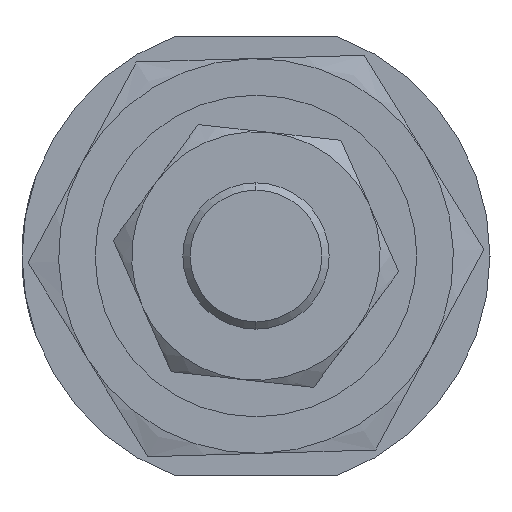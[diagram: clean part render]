
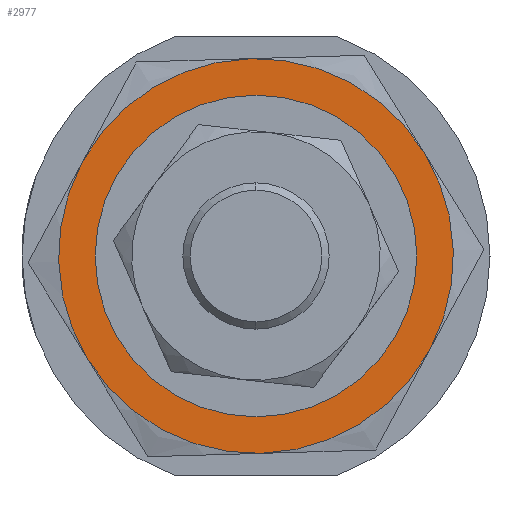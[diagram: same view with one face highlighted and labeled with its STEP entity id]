
A CAD part, left-side view. The second image highlights one B-rep face of the part: STEP entity #2977.
In plain terms, the highlighted planar face has unit normal (-1, 0, 0) as drawn and (0, 0, -1) by its records, which use the part's own axes.
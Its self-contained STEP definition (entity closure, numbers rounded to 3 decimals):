
#52 = CIRCLE ( 'NONE', #1201, 13.5 ) ;
#57 = AXIS2_PLACEMENT_3D ( 'NONE', #1190, #120, #932 ) ;
#80 = ORIENTED_EDGE ( 'NONE', *, *, #3220, .F. ) ;
#84 = EDGE_CURVE ( 'NONE', #3786, #572, #609, .T. ) ;
#99 = CARTESIAN_POINT ( 'NONE',  ( -6.75, -11.691, -5. ) ) ;
#105 = CARTESIAN_POINT ( 'NONE',  ( 13.5, 0., -5. ) ) ;
#120 = DIRECTION ( 'NONE',  ( 0., 0., 1. ) ) ;
#254 = EDGE_LOOP ( 'NONE', ( #1510, #4285 ) ) ;
#312 = EDGE_CURVE ( 'NONE', #902, #1429, #2110, .T. ) ;
#388 = CARTESIAN_POINT ( 'NONE',  ( 0., 0., -5. ) ) ;
#404 = DIRECTION ( 'NONE',  ( 1., 0., 0. ) ) ;
#418 = CARTESIAN_POINT ( 'NONE',  ( 0., 0., -5. ) ) ;
#421 = DIRECTION ( 'NONE',  ( 0., 0., 1. ) ) ;
#572 = VERTEX_POINT ( 'NONE', #3215 ) ;
#609 = CIRCLE ( 'NONE', #1931, 13.5 ) ;
#677 = EDGE_CURVE ( 'NONE', #572, #1050, #52, .T. ) ;
#694 = CARTESIAN_POINT ( 'NONE',  ( -13.5, 0., -5. ) ) ;
#723 = DIRECTION ( 'NONE',  ( 1., 0., 0. ) ) ;
#749 = DIRECTION ( 'NONE',  ( 0., 0., 1. ) ) ;
#864 = DIRECTION ( 'NONE',  ( 0., 0., 1. ) ) ;
#902 = VERTEX_POINT ( 'NONE', #1003 ) ;
#932 = DIRECTION ( 'NONE',  ( 1., 0., 0. ) ) ;
#966 = ORIENTED_EDGE ( 'NONE', *, *, #3480, .F. ) ;
#1003 = CARTESIAN_POINT ( 'NONE',  ( 10.25, 0., -5. ) ) ;
#1026 = DIRECTION ( 'NONE',  ( 1., 0., 0. ) ) ;
#1050 = VERTEX_POINT ( 'NONE', #694 ) ;
#1179 = VERTEX_POINT ( 'NONE', #3015 ) ;
#1190 = CARTESIAN_POINT ( 'NONE',  ( 0., 0., -5. ) ) ;
#1201 = AXIS2_PLACEMENT_3D ( 'NONE', #418, #864, #1026 ) ;
#1270 = DIRECTION ( 'NONE',  ( 0., 0., 1. ) ) ;
#1410 = DIRECTION ( 'NONE',  ( 0., 0., 1. ) ) ;
#1429 = VERTEX_POINT ( 'NONE', #2807 ) ;
#1510 = ORIENTED_EDGE ( 'NONE', *, *, #312, .T. ) ;
#1565 = DIRECTION ( 'NONE',  ( 1., 0., 0. ) ) ;
#1653 = CARTESIAN_POINT ( 'NONE',  ( 0., 0., -5. ) ) ;
#1682 = DIRECTION ( 'NONE',  ( 1., 0., 0. ) ) ;
#1804 = CIRCLE ( 'NONE', #4376, 13.5 ) ;
#1910 = DIRECTION ( 'NONE',  ( 1., 0., 0. ) ) ;
#1931 = AXIS2_PLACEMENT_3D ( 'NONE', #1653, #3575, #2582 ) ;
#2041 = ORIENTED_EDGE ( 'NONE', *, *, #677, .F. ) ;
#2088 = CARTESIAN_POINT ( 'NONE',  ( 0., 0., -5. ) ) ;
#2090 = CIRCLE ( 'NONE', #4457, 13.5 ) ;
#2110 = CIRCLE ( 'NONE', #2624, 10.25 ) ;
#2243 = CARTESIAN_POINT ( 'NONE',  ( 0., 0., -5. ) ) ;
#2472 = AXIS2_PLACEMENT_3D ( 'NONE', #4236, #3472, #1910 ) ;
#2524 = DIRECTION ( 'NONE',  ( 1., 0., 0. ) ) ;
#2582 = DIRECTION ( 'NONE',  ( 1., 0., 0. ) ) ;
#2624 = AXIS2_PLACEMENT_3D ( 'NONE', #4338, #421, #1565 ) ;
#2724 = AXIS2_PLACEMENT_3D ( 'NONE', #2243, #749, #2524 ) ;
#2807 = CARTESIAN_POINT ( 'NONE',  ( -10.25, 0., -5. ) ) ;
#2977 = ADVANCED_FACE ( 'NONE', ( #3981, #3062 ), #3915, .F. ) ;
#3015 = CARTESIAN_POINT ( 'NONE',  ( 6.75, -11.691, -5. ) ) ;
#3062 = FACE_OUTER_BOUND ( 'NONE', #3891, .T. ) ;
#3080 = ORIENTED_EDGE ( 'NONE', *, *, #3938, .F. ) ;
#3118 = CARTESIAN_POINT ( 'NONE',  ( 0., 0., -5. ) ) ;
#3203 = AXIS2_PLACEMENT_3D ( 'NONE', #2088, #1270, #723 ) ;
#3215 = CARTESIAN_POINT ( 'NONE',  ( -6.75, 11.691, -5. ) ) ;
#3220 = EDGE_CURVE ( 'NONE', #1179, #3300, #3268, .T. ) ;
#3268 = CIRCLE ( 'NONE', #2472, 13.5 ) ;
#3284 = EDGE_CURVE ( 'NONE', #3300, #3786, #1804, .T. ) ;
#3300 = VERTEX_POINT ( 'NONE', #105 ) ;
#3472 = DIRECTION ( 'NONE',  ( 0., 0., 1. ) ) ;
#3480 = EDGE_CURVE ( 'NONE', #3672, #1179, #2090, .T. ) ;
#3510 = CIRCLE ( 'NONE', #2724, 13.5 ) ;
#3572 = ORIENTED_EDGE ( 'NONE', *, *, #84, .F. ) ;
#3575 = DIRECTION ( 'NONE',  ( 0., 0., 1. ) ) ;
#3672 = VERTEX_POINT ( 'NONE', #99 ) ;
#3786 = VERTEX_POINT ( 'NONE', #3931 ) ;
#3811 = DIRECTION ( 'NONE',  ( 0., 0., 1. ) ) ;
#3891 = EDGE_LOOP ( 'NONE', ( #4076, #80, #966, #3080, #2041, #3572 ) ) ;
#3915 = PLANE ( 'NONE',  #57 ) ;
#3931 = CARTESIAN_POINT ( 'NONE',  ( 6.75, 11.691, -5. ) ) ;
#3938 = EDGE_CURVE ( 'NONE', #1050, #3672, #3510, .T. ) ;
#3981 = FACE_BOUND ( 'NONE', #254, .T. ) ;
#4076 = ORIENTED_EDGE ( 'NONE', *, *, #3284, .F. ) ;
#4236 = CARTESIAN_POINT ( 'NONE',  ( 0., 0., -5. ) ) ;
#4285 = ORIENTED_EDGE ( 'NONE', *, *, #4364, .T. ) ;
#4338 = CARTESIAN_POINT ( 'NONE',  ( 0., 0., -5. ) ) ;
#4364 = EDGE_CURVE ( 'NONE', #1429, #902, #4445, .T. ) ;
#4376 = AXIS2_PLACEMENT_3D ( 'NONE', #3118, #1410, #404 ) ;
#4445 = CIRCLE ( 'NONE', #3203, 10.25 ) ;
#4457 = AXIS2_PLACEMENT_3D ( 'NONE', #388, #3811, #1682 ) ;
